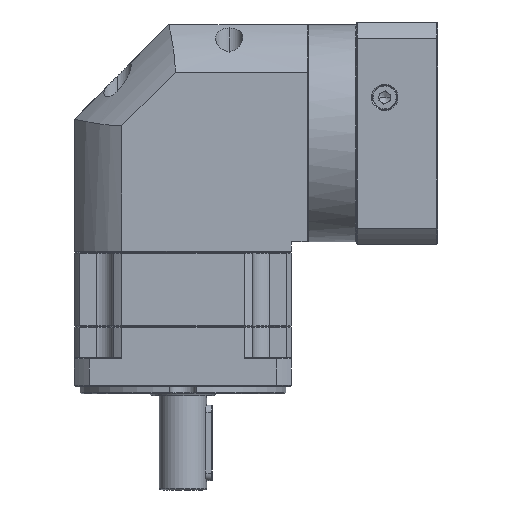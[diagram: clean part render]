
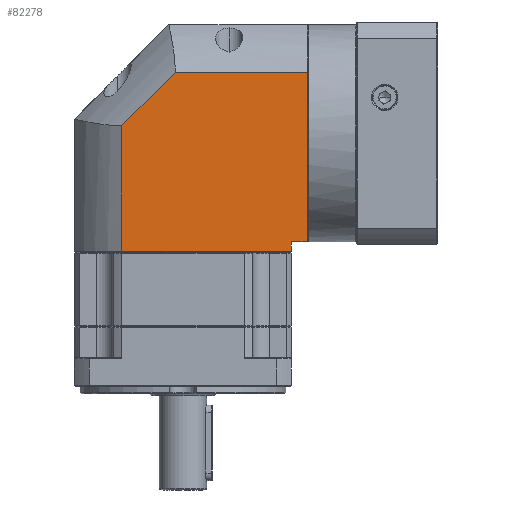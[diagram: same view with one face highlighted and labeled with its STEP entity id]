
A CAD part, front view. The second image highlights one B-rep face of the part: STEP entity #82278.
In plain terms, the highlighted planar face has unit normal (0, -1, 0).
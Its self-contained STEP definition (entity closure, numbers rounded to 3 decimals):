
#753 = CARTESIAN_POINT ( 'NONE',  ( 11.823, 17.224, 30.283 ) ) ;
#1215 = DIRECTION ( 'NONE',  ( 0.707, 0., 0.707 ) ) ;
#6388 = VECTOR ( 'NONE', #43550, 1000. ) ;
#10095 = ORIENTED_EDGE ( 'NONE', *, *, #39602, .F. ) ;
#13863 = LINE ( 'NONE', #53075, #115189 ) ;
#15257 = VECTOR ( 'NONE', #122511, 1000. ) ;
#15309 = CARTESIAN_POINT ( 'NONE',  ( 11.823, 17.224, -42.779 ) ) ;
#22775 = AXIS2_PLACEMENT_3D ( 'NONE', #124055, #59524, #59065 ) ;
#23513 = EDGE_CURVE ( 'NONE', #63942, #87681, #55147, .T. ) ;
#24080 = ORIENTED_EDGE ( 'NONE', *, *, #23513, .F. ) ;
#26416 = LINE ( 'NONE', #63905, #6388 ) ;
#26933 = VECTOR ( 'NONE', #57951, 1000. ) ;
#34715 = CARTESIAN_POINT ( 'NONE',  ( 101.723, 17.224, -31.279 ) ) ;
#35694 = LINE ( 'NONE', #74362, #115284 ) ;
#37417 = ORIENTED_EDGE ( 'NONE', *, *, #72901, .F. ) ;
#39226 = CARTESIAN_POINT ( 'NONE',  ( 110.123, 17.224, -31.279 ) ) ;
#39602 = EDGE_CURVE ( 'NONE', #85294, #84400, #35694, .T. ) ;
#43550 = DIRECTION ( 'NONE',  ( -1., 0., 0. ) ) ;
#43598 = VECTOR ( 'NONE', #85463, 1000. ) ;
#52757 = CARTESIAN_POINT ( 'NONE',  ( 101.723, 17.224, -36.279 ) ) ;
#53075 = CARTESIAN_POINT ( 'NONE',  ( 101.723, 17.224, -42.779 ) ) ;
#55147 = LINE ( 'NONE', #15309, #26933 ) ;
#56628 = EDGE_CURVE ( 'NONE', #126091, #129925, #13863, .T. ) ;
#57664 = EDGE_CURVE ( 'NONE', #126198, #126091, #26416, .T. ) ;
#57874 = VECTOR ( 'NONE', #1215, 1000. ) ;
#57951 = DIRECTION ( 'NONE',  ( 0., 0., 1. ) ) ;
#59065 = DIRECTION ( 'NONE',  ( 1., 0., 0. ) ) ;
#59524 = DIRECTION ( 'NONE',  ( 0., 1., 0. ) ) ;
#63905 = CARTESIAN_POINT ( 'NONE',  ( -13.277, 17.224, -31.279 ) ) ;
#63942 = VERTEX_POINT ( 'NONE', #77138 ) ;
#69084 = ORIENTED_EDGE ( 'NONE', *, *, #57664, .F. ) ;
#72901 = EDGE_CURVE ( 'NONE', #84400, #126198, #128167, .T. ) ;
#74362 = CARTESIAN_POINT ( 'NONE',  ( -13.277, 17.224, 58.621 ) ) ;
#75876 = EDGE_LOOP ( 'NONE', ( #108803, #69084, #37417, #10095, #76719, #24080, #128775 ) ) ;
#76719 = ORIENTED_EDGE ( 'NONE', *, *, #84920, .F. ) ;
#77138 = CARTESIAN_POINT ( 'NONE',  ( 11.823, 17.224, -36.279 ) ) ;
#81222 = CARTESIAN_POINT ( 'NONE',  ( 110.123, 17.224, -42.779 ) ) ;
#82278 = ADVANCED_FACE ( 'NONE', ( #105705 ), #82315, .F. ) ;
#82315 = PLANE ( 'NONE',  #22775 ) ;
#84400 = VERTEX_POINT ( 'NONE', #97320 ) ;
#84920 = EDGE_CURVE ( 'NONE', #87681, #85294, #99530, .T. ) ;
#85294 = VERTEX_POINT ( 'NONE', #99849 ) ;
#85463 = DIRECTION ( 'NONE',  ( -1., 0., 0. ) ) ;
#87681 = VERTEX_POINT ( 'NONE', #122959 ) ;
#96164 = CARTESIAN_POINT ( 'NONE',  ( -13.277, 17.224, -36.279 ) ) ;
#97320 = CARTESIAN_POINT ( 'NONE',  ( 110.123, 17.224, 58.621 ) ) ;
#99530 = LINE ( 'NONE', #753, #57874 ) ;
#99849 = CARTESIAN_POINT ( 'NONE',  ( 40.161, 17.224, 58.621 ) ) ;
#105705 = FACE_OUTER_BOUND ( 'NONE', #75876, .T. ) ;
#106037 = DIRECTION ( 'NONE',  ( 0., 0., -1. ) ) ;
#108803 = ORIENTED_EDGE ( 'NONE', *, *, #56628, .F. ) ;
#113348 = LINE ( 'NONE', #96164, #43598 ) ;
#115189 = VECTOR ( 'NONE', #106037, 1000. ) ;
#115284 = VECTOR ( 'NONE', #137503, 1000. ) ;
#122511 = DIRECTION ( 'NONE',  ( 0., 0., -1. ) ) ;
#122959 = CARTESIAN_POINT ( 'NONE',  ( 11.823, 17.224, 30.283 ) ) ;
#124055 = CARTESIAN_POINT ( 'NONE',  ( -13.277, 17.224, -42.779 ) ) ;
#126091 = VERTEX_POINT ( 'NONE', #34715 ) ;
#126198 = VERTEX_POINT ( 'NONE', #39226 ) ;
#128167 = LINE ( 'NONE', #81222, #15257 ) ;
#128775 = ORIENTED_EDGE ( 'NONE', *, *, #129156, .F. ) ;
#129156 = EDGE_CURVE ( 'NONE', #129925, #63942, #113348, .T. ) ;
#129925 = VERTEX_POINT ( 'NONE', #52757 ) ;
#137503 = DIRECTION ( 'NONE',  ( 1., 0., 0. ) ) ;
